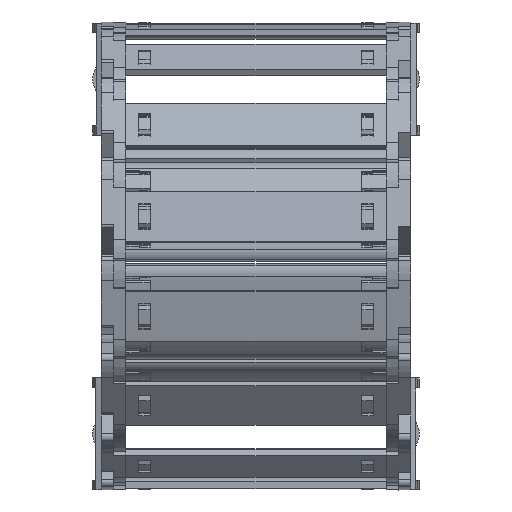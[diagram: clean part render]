
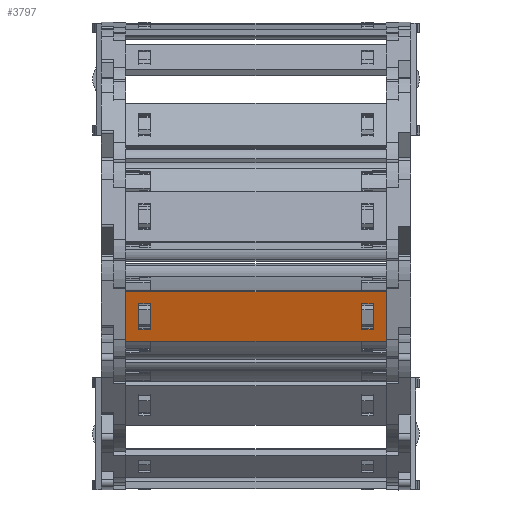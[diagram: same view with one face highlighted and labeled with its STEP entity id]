
A CAD part, top view. The second image highlights one B-rep face of the part: STEP entity #3797.
In plain terms, the highlighted planar face has unit normal (0, -0.259, 0.966) as drawn and (0, 1, 0) by its records, which use the part's own axes.
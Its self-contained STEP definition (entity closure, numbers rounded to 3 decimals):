
#2923=DIRECTION('',(0.,0.,1.));
#2924=VECTOR('',#2923,15.8);
#2925=CARTESIAN_POINT('',(65.74,1.5,-7.9));
#2926=LINE('',#2925,#2924);
#2930=DIRECTION('',(-1.,0.,0.));
#2931=VECTOR('',#2930,80.5);
#2932=CARTESIAN_POINT('',(65.74,1.5,7.9));
#2933=LINE('',#2932,#2931);
#2937=DIRECTION('',(0.,0.,-1.));
#2938=VECTOR('',#2937,15.8);
#2939=CARTESIAN_POINT('',(-14.76,1.5,7.9));
#2940=LINE('',#2939,#2938);
#2944=DIRECTION('',(1.,0.,0.));
#2945=VECTOR('',#2944,3.648);
#2946=CARTESIAN_POINT('',(58.122,1.5,4.075));
#2947=LINE('',#2946,#2945);
#2951=DIRECTION('',(0.,0.,-1.));
#2952=VECTOR('',#2951,8.15);
#2953=CARTESIAN_POINT('',(61.77,1.5,4.075));
#2954=LINE('',#2953,#2952);
#2958=DIRECTION('',(-1.,0.,0.));
#2959=VECTOR('',#2958,3.648);
#2960=CARTESIAN_POINT('',(61.77,1.5,-4.075));
#2961=LINE('',#2960,#2959);
#2965=DIRECTION('',(0.,0.,-1.));
#2966=VECTOR('',#2965,8.15);
#2967=CARTESIAN_POINT('',(-7.142,1.5,4.075));
#2968=LINE('',#2967,#2966);
#2972=DIRECTION('',(-1.,0.,0.));
#2973=VECTOR('',#2972,3.648);
#2974=CARTESIAN_POINT('',(-7.142,1.5,-4.075));
#2975=LINE('',#2974,#2973);
#2979=DIRECTION('',(0.,0.,1.));
#2980=VECTOR('',#2979,8.15);
#2981=CARTESIAN_POINT('',(-10.79,1.5,-4.075));
#2982=LINE('',#2981,#2980);
#2986=DIRECTION('',(1.,0.,0.));
#2987=VECTOR('',#2986,3.648);
#2988=CARTESIAN_POINT('',(-10.79,1.5,4.075));
#2989=LINE('',#2988,#2987);
#3000=DIRECTION('',(-1.,0.,0.));
#3001=VECTOR('',#3000,80.5);
#3002=CARTESIAN_POINT('',(65.74,1.5,-7.9));
#3003=LINE('',#3002,#3001);
#3208=DIRECTION('',(0.,0.,-1.));
#3209=VECTOR('',#3208,8.15);
#3210=CARTESIAN_POINT('',(58.122,1.5,4.075));
#3211=LINE('',#3210,#3209);
#3507=CARTESIAN_POINT('',(61.77,1.5,4.075));
#3508=VERTEX_POINT('',#3507);
#3509=CARTESIAN_POINT('',(58.122,1.5,4.075));
#3510=VERTEX_POINT('',#3509);
#3551=CARTESIAN_POINT('',(58.122,1.5,-4.075));
#3552=VERTEX_POINT('',#3551);
#3553=CARTESIAN_POINT('',(61.77,1.5,-4.075));
#3554=VERTEX_POINT('',#3553);
#3555=CARTESIAN_POINT('',(65.74,1.5,7.9));
#3557=VERTEX_POINT('',#3555);
#3559=CARTESIAN_POINT('',(65.74,1.5,-7.9));
#3560=VERTEX_POINT('',#3559);
#3583=CARTESIAN_POINT('',(-7.142,1.5,4.075));
#3584=CARTESIAN_POINT('',(-7.142,1.5,-4.075));
#3585=VERTEX_POINT('',#3583);
#3586=VERTEX_POINT('',#3584);
#3587=CARTESIAN_POINT('',(-10.79,1.5,-4.075));
#3588=VERTEX_POINT('',#3587);
#3589=CARTESIAN_POINT('',(-10.79,1.5,4.075));
#3590=VERTEX_POINT('',#3589);
#3591=CARTESIAN_POINT('',(-14.76,1.5,7.9));
#3592=VERTEX_POINT('',#3591);
#3595=CARTESIAN_POINT('',(-14.76,1.5,-7.9));
#3596=VERTEX_POINT('',#3595);
#3766=CARTESIAN_POINT('',(97.48,1.5,10.061));
#3767=DIRECTION('',(0.,-1.,0.));
#3768=DIRECTION('',(0.,0.,-1.));
#3769=AXIS2_PLACEMENT_3D('',#3766,#3767,#3768);
#3770=PLANE('',#3769);
#3771=ORIENTED_EDGE('',*,*,#3669,.T.);
#3772=ORIENTED_EDGE('',*,*,#3707,.T.);
#3773=ORIENTED_EDGE('',*,*,#3732,.T.);
#3775=ORIENTED_EDGE('',*,*,#3774,.F.);
#3776=EDGE_LOOP('',(#3771,#3772,#3773,#3775));
#3777=FACE_OUTER_BOUND('',#3776,.F.);
#3779=ORIENTED_EDGE('',*,*,#3778,.F.);
#3780=ORIENTED_EDGE('',*,*,#3608,.T.);
#3782=ORIENTED_EDGE('',*,*,#3781,.T.);
#3784=ORIENTED_EDGE('',*,*,#3783,.T.);
#3785=EDGE_LOOP('',(#3779,#3780,#3782,#3784));
#3786=FACE_BOUND('',#3785,.F.);
#3788=ORIENTED_EDGE('',*,*,#3787,.T.);
#3790=ORIENTED_EDGE('',*,*,#3789,.T.);
#3792=ORIENTED_EDGE('',*,*,#3791,.T.);
#3794=ORIENTED_EDGE('',*,*,#3793,.T.);
#3795=EDGE_LOOP('',(#3788,#3790,#3792,#3794));
#3796=FACE_BOUND('',#3795,.F.);
#3797=ADVANCED_FACE('',(#3777,#3786,#3796),#3770,.F.);
#3608=EDGE_CURVE('',#3510,#3508,#2947,.T.);
#3669=EDGE_CURVE('',#3560,#3557,#2926,.T.);
#3707=EDGE_CURVE('',#3557,#3592,#2933,.T.);
#3732=EDGE_CURVE('',#3592,#3596,#2940,.T.);
#3774=EDGE_CURVE('',#3560,#3596,#3003,.T.);
#3778=EDGE_CURVE('',#3510,#3552,#3211,.T.);
#3781=EDGE_CURVE('',#3508,#3554,#2954,.T.);
#3783=EDGE_CURVE('',#3554,#3552,#2961,.T.);
#3787=EDGE_CURVE('',#3585,#3586,#2968,.T.);
#3789=EDGE_CURVE('',#3586,#3588,#2975,.T.);
#3791=EDGE_CURVE('',#3588,#3590,#2982,.T.);
#3793=EDGE_CURVE('',#3590,#3585,#2989,.T.);
